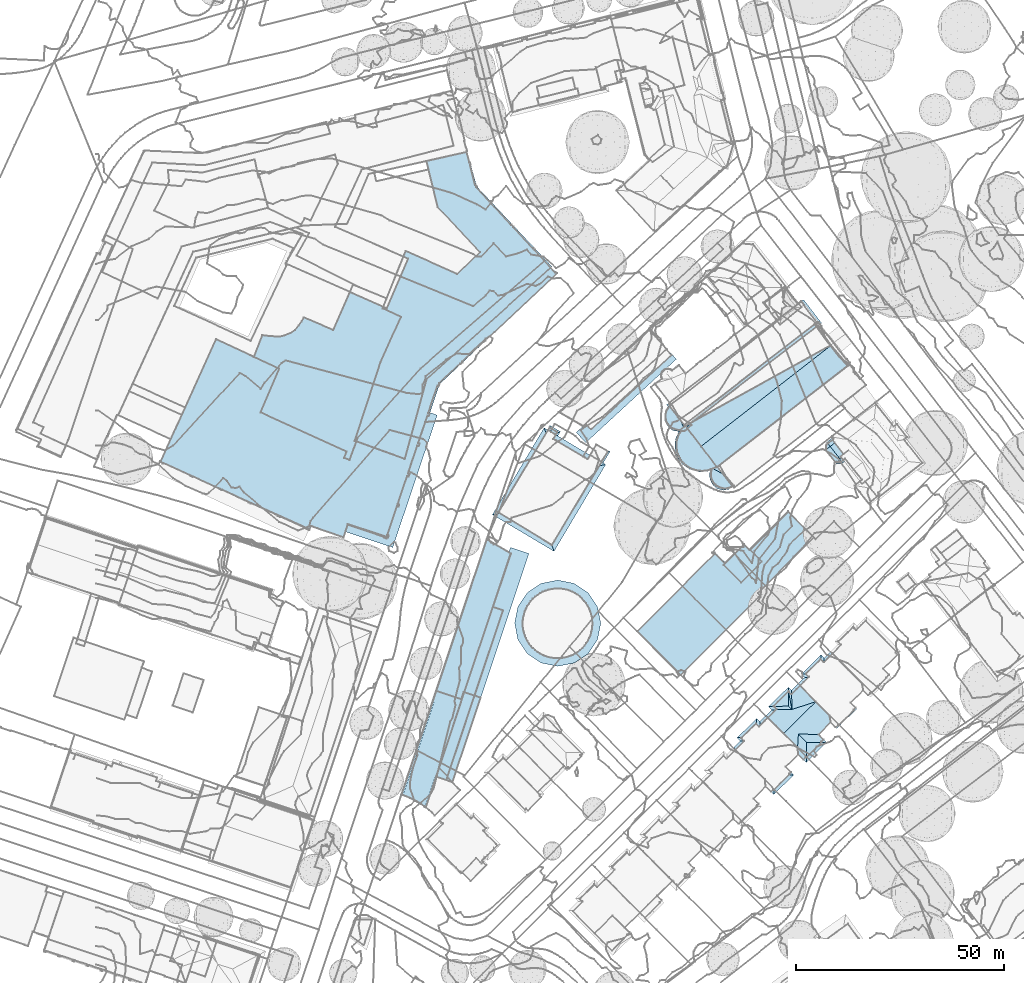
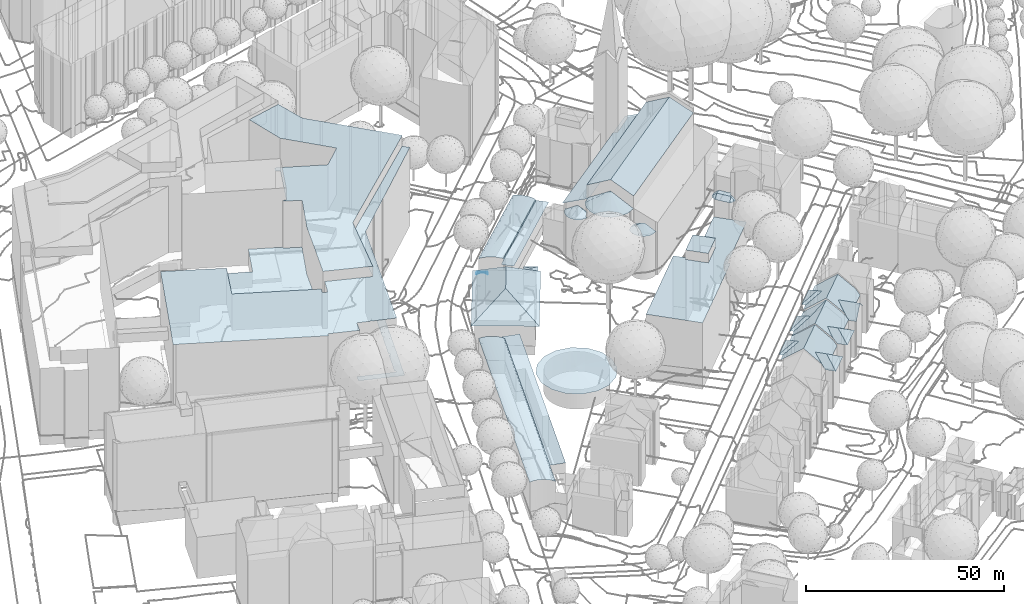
# Not in any storey, part 67 of 477: 21 roofs.
"""IFC4 building model written with IfcOpenShell, lengths in metres."""

from ifc_helpers import new_model, si_unit, frame, origin_with_axes, place, context, subcontext, project, spatial, polygons, element, save


model = new_model("IFC4")

# Units and contexts
model_context = context("Model", 3, precision=1e-05, world=origin_with_axes())
body_context = subcontext(model_context, "Body", "Model", "MODEL_VIEW")
ifc_project = project(units=[si_unit("AREAUNIT", "SQUARE_METRE"), si_unit("LENGTHUNIT", "METRE")], contexts=[model_context])

# Sites, building
site_1_placement = place(None, origin_with_axes())
site_1 = spatial("IfcSite", under=ifc_project, at=site_1_placement, Name="Topoexport Site")
site_2_placement = place(site_1_placement, origin_with_axes())
site_2 = spatial("IfcSite", under=site_1, at=site_2_placement, Name="TPX_BUILDINGS")
building_1_placement = place(site_2_placement, frame((129.1307320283, 172.8855160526, 527.2133), z_axis=(0.0, 0.0, 1.0), x_axis=(1.0, 0.0, 0.0)))
building_1 = spatial("IfcBuilding", under=site_2, at=building_1_placement, Name="Building 41", CompositionType="ELEMENT")

# Roofs
roof_1_placement = place(None, frame((129.1307320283, 172.8855160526, 527.2133), z_axis=(0.0, 0.0, 1.0), x_axis=(1.0, 0.0, 0.0)))
element("IfcRoof", 1, at=roof_1_placement, inside=building_1, Name="Roof 0", context=body_context, shape_type="Tessellation", body=[
    polygons([(42.3549999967, 22.5430000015, 20.498), (29.9069999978, 16.7265999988, 20.498), (36.2619999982, 28.6290000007, 20.498), (27.1359999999, 19.4952000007, 20.498), (24.9499999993, 11.7657000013, 20.498), (29.0059999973, 9.183600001, 20.498), (20.7619999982, 15.9501999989, 20.498), (18.8549999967, 18.8731000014, 20.498), (21.2709999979, 16.4589999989, 20.498), (0.0, 0.0, 20.498), (10.4670000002, -10.4569999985, 20.498), (29.5469999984, 8.6416000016, 20.498)], [[[3, 2, 1]], [[2, 3, 4]], [[6, 2, 5]], [[6, 1, 2]], [[9, 8, 7]], [[10, 7, 8]], [[11, 6, 5]], [[11, 12, 6]], [[5, 7, 10]], [[10, 11, 5]]]),
])
roof_2_placement = place(None, frame((129.1307320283, 172.8855160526, 527.2133), z_axis=(0.0, 0.0, 1.0), x_axis=(1.0, 0.0, 0.0)))
element("IfcRoof", 2, at=roof_2_placement, inside=building_1, Name="Roof 1", context=body_context, shape_type="Tessellation", body=[
    polygons([(24.9499999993, 11.7657000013, 23.3617), (20.7619999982, 15.9501999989, 23.3617), (29.9069999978, 16.7265999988, 23.3617), (25.7179999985, 20.9111999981, 23.3617)], [[[3, 2, 1]], [[3, 4, 2]]]),
])

# Building
building_2_placement = place(site_2_placement, frame((168.236732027, 159.8387160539, 531.4768), z_axis=(0.0, 0.0, 1.0), x_axis=(1.0, 0.0, 0.0)))
building_2 = spatial("IfcBuilding", under=site_2, at=building_2_placement, Name="Building 76", CompositionType="ELEMENT")

# Roof
roof_3_placement = place(None, frame((168.236732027, 159.8387160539, 531.4768), z_axis=(0.0, 0.0, 1.0), x_axis=(1.0, 0.0, 0.0)))
element("IfcRoof", 3, at=roof_3_placement, inside=building_2, Name="Roof 0", context=body_context, shape_type="Tessellation", body=[
    polygons([(5.7740000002, 2.0361000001, 14.2846), (-0.4900000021, 0.4960999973, 11.7109), (1.9120000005, 2.0028999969, 12.1738), (1.0669999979, 2.0331999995, 11.7109), (0.3189999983, 2.7928999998, 11.7109), (1.4600000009, 2.8125, 12.3448), (4.949000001, 2.8710999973, 14.2846), (5.748999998, 6.6561999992, 11.7109), (4.9890000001, 6.3553999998, 12.3108), (5.0009999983, 7.4149999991, 11.7109), (13.3440000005, -5.2735000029, 11.7109), (13.5899999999, -5.5235000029, 11.7109), (7.2939999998, -3.6524000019, 14.5876), (12.1510000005, -4.0655000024, 11.7109), (11.3359999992, -7.7471000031, 14.5876), (11.2010000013, -7.6114000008, 14.5876), (8.574000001, -10.009800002, 11.3339), (8.805999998, -10.2451000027, 11.3339), (7.3669999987, -8.7871000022, 11.3339), (15.1840000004, -1.0703000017, 11.7109), (14.8770000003, 0.5409999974, 12.7678), (11.5669999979, 3.8954999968, 16.4254), (7.0720000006, -7.1641000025, 12.7678), (3.7619999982, -3.8115999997, 16.4254), (7.3150000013, 8.2020999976, 11.7109)], [[[3, 2, 1]], [[2, 3, 4]], [[3, 5, 4]], [[3, 7, 6]], [[3, 6, 5]], [[3, 1, 7]], [[1, 8, 7]], [[7, 8, 9]], [[9, 8, 10]], [[9, 10, 5]], [[9, 6, 7]], [[6, 9, 5]], [[13, 12, 11]], [[13, 11, 14]], [[12, 16, 15]], [[16, 12, 13]], [[16, 13, 17]], [[15, 16, 18]], [[17, 18, 16]], [[17, 13, 19]], [[21, 14, 20]], [[13, 21, 22]], [[13, 24, 23]], [[24, 13, 22]], [[13, 14, 21]], [[1, 24, 22]], [[8, 1, 22]], [[8, 22, 25]], [[1, 2, 24]], [[13, 23, 19]]]),
])

# Building
building_3_placement = place(site_2_placement, frame((152.792732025, 144.4969160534, 530.4589), z_axis=(0.0, 0.0, 1.0), x_axis=(1.0, 0.0, 0.0)))
building_3 = spatial("IfcBuilding", under=site_2, at=building_3_placement, Name="Building 77", CompositionType="ELEMENT")

# Roof
roof_4_placement = place(None, frame((152.792732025, 144.4969160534, 530.4589), z_axis=(0.0, 0.0, 1.0), x_axis=(1.0, 0.0, 0.0)))
element("IfcRoof", 4, at=roof_4_placement, inside=building_3, Name="Roof 0", context=body_context, shape_type="Tessellation", body=[
    polygons([(7.0240000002, -3.9297000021, 14.4656), (3.7160000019, -3.7655999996, 16.6064), (11.4990000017, 3.9199000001, 16.6064), (14.8100000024, 0.5673999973, 12.7558), (11.9930000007, -4.1270000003, 11.9018), (15.0250000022, -1.134800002, 11.9018), (12.7750000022, -6.0459000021, 12.4998), (13.2320000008, -5.3819000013, 11.9018), (13.8900000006, -6.0479000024, 11.9018), (9.1090000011, -6.0410000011, 14.4656), (9.1130000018, -10.7666000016, 11.9018), (7.0860000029, -8.1914000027, 12.2278), (7.2149999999, -8.8447999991, 11.9018), (8.4680000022, -10.1132999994, 11.9018), (7.0250000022, -7.1172000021, 12.7557), (5.7910000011, 2.1543000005, 14.4656), (0.0, 0.0, 12.4958), (1.0560000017, 2.115199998, 11.9018), (-0.5369999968, 0.5438999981, 11.9018), (1.9360000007, 2.1219999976, 12.3788), (1.4580000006, 2.8759999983, 12.5208), (0.3060000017, 2.875, 11.9018), (5.0760000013, 2.878899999, 14.4656), (6.9220000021, 6.8759999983, 12.5478), (5.7410000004, 5.7020999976, 12.4768), (5.7259999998, 6.7265000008, 11.9018), (7.2460000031, 8.2284999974, 11.9978), (9.4890000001, 5.9560000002, 14.4286), (7.7600000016, 7.7080000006, 12.5548), (5.006000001, 6.1171999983, 12.6628), (4.9759999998, 7.4844000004, 11.9019)], [[[3, 2, 1]], [[3, 1, 4]], [[6, 1, 5]], [[4, 1, 6]], [[9, 8, 7]], [[7, 8, 5]], [[5, 1, 10]], [[5, 10, 7]], [[11, 7, 10]], [[7, 11, 9]], [[13, 1, 12]], [[10, 1, 14]], [[14, 1, 13]], [[14, 11, 10]], [[12, 1, 15]], [[2, 15, 1]], [[17, 2, 16]], [[19, 17, 18]], [[3, 16, 2]], [[20, 18, 17]], [[16, 20, 17]], [[22, 18, 21]], [[21, 18, 20]], [[20, 16, 23]], [[20, 23, 21]], [[25, 16, 24]], [[25, 27, 26]], [[27, 25, 24]], [[3, 28, 16]], [[16, 28, 24]], [[29, 27, 24]], [[29, 24, 28]], [[26, 30, 25]], [[16, 25, 23]], [[30, 23, 25]], [[31, 30, 26]], [[30, 31, 21]], [[21, 23, 30]], [[22, 21, 31]]]),
])

# Building
building_4_placement = place(site_2_placement, frame((95.7557320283, 201.4705160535, 529.7781), z_axis=(0.0, 0.0, 1.0), x_axis=(1.0, 0.0, 0.0)))
building_4 = spatial("IfcBuilding", under=site_2, at=building_4_placement, Name="Building 138", CompositionType="ELEMENT")

# Roofs
roof_5_placement = place(None, frame((95.7557320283, 201.4705160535, 529.7781), z_axis=(0.0, 0.0, 1.0), x_axis=(1.0, 0.0, 0.0)))
element("IfcRoof", 5, at=roof_5_placement, inside=building_4, Name="Roof 0", context=body_context, shape_type="Tessellation", body=[
    polygons([(12.7229999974, 19.2909999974, 8.9521), (11.742999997, 19.875, 8.3652), (12.5199999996, 20.2040999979, 8.6212), (12.3619999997, 20.9111000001, 8.3652), (13.9899999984, 18.995099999, 8.7611), (14.2579999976, 18.3759999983, 8.3652), (13.561999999, 18.7929999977, 8.9521), (14.8759999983, 19.4131000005, 8.3652)], [[[3, 2, 1]], [[2, 3, 4]], [[7, 6, 5]], [[5, 6, 8]], [[5, 1, 7]], [[3, 5, 8]], [[3, 1, 5]], [[4, 3, 8]]]),
])
roof_6_placement = place(None, frame((95.7557320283, 201.4705160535, 529.7781), z_axis=(0.0, 0.0, 1.0), x_axis=(1.0, 0.0, 0.0)))
element("IfcRoof", 6, at=roof_6_placement, inside=building_4, Name="Roof 1", context=body_context, shape_type="Tessellation", body=[
    polygons([(24.3259999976, 13.9882999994, 9.5001), (25.1479999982, 11.8847999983, 8.7191), (24.7869999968, 12.1006000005, 8.9061), (23.6169999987, 12.7978999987, 9.5141), (23.987999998, 12.5761999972, 9.3211), (23.2349999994, 13.0263999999, 9.3211), (22.0429999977, 13.7372999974, 8.7191), (23.7709999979, 16.1142999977, 8.8341), (26.7829999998, 14.6279000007, 8.7191), (23.675999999, 16.4804999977, 8.7191), (14.561999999, 9.5263999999, 16.1164), (20.8969999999, 13.0937999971, 10.548), (22.0429999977, 13.7372999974, 9.5431), (24.7869999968, 12.1006000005, 9.5361), (25.1479999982, 11.8847999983, 9.5431), (24.5839999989, 11.7588, 9.893), (24.2789999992, 11.2480999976, 10.418), (25.7719999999, 11.5136999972, 9.5431), (12.8409999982, -7.871100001, 10.446), (-1.4530000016, -0.5146000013, 9.5431), (0.3530000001, -0.2158000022, 10.61), (9.6719999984, 1.3242000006, 16.1164), (13.3459999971, -9.3359000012, 9.543), (23.5359999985, 16.2520000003, 8.7191), (11.443, 18.9247999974, 10.4), (10.9749999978, 20.3339999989, 9.5431), (12.7229999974, 19.2909999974, 9.5431), (14.1549999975, 18.4375, 9.5431), (13.561999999, 18.7929999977, 9.5431)], [[[3, 2, 1]], [[5, 1, 4]], [[1, 5, 3]], [[4, 1, 6]], [[7, 6, 1]], [[9, 8, 1]], [[8, 9, 10]], [[9, 1, 2]], [[12, 11, 4]], [[4, 13, 12]], [[4, 11, 14]], [[16, 15, 14]], [[16, 14, 11]], [[18, 15, 17]], [[16, 11, 17]], [[16, 17, 15]], [[21, 20, 19]], [[19, 22, 21]], [[23, 19, 20]], [[8, 10, 24]], [[7, 1, 8]], [[7, 8, 24]], [[19, 23, 17]], [[22, 19, 11]], [[17, 11, 19]], [[18, 17, 23]], [[25, 21, 11]], [[20, 25, 26]], [[21, 22, 11]], [[20, 21, 25]], [[27, 26, 25]], [[29, 25, 28]], [[25, 29, 27]], [[25, 11, 28]], [[28, 12, 13]], [[12, 28, 11]]]),
])

# Building
building_5_placement = place(site_2_placement, frame((-19.7342679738, 221.4617160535, 529.9572), z_axis=(0.0, 0.0, 1.0), x_axis=(1.0, 0.0, 0.0)))
building_5 = spatial("IfcBuilding", under=site_2, at=building_5_placement, Name="Building 139", CompositionType="ELEMENT")

# Roofs
roof_7_placement = place(None, frame((-19.7342679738, 221.4617160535, 529.9572), z_axis=(0.0, 0.0, 1.0), x_axis=(1.0, 0.0, 0.0)))
element("IfcRoof", 7, at=roof_7_placement, inside=building_5, Name="Roof 6", context=body_context, shape_type="Tessellation", body=[
    polygons([(79.0159999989, -5.4209000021, 12.5557), (79.7529999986, -7.4209000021, 12.5557), (78.4660000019, -6.9248000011, 12.5557), (80.9890000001, -2.8291000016, 12.5557), (81.4059999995, -2.9794999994, 12.5557), (87.1979999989, 16.0947999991, 12.5557), (62.8740000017, 14.4862999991, 12.5557), (58.3509999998, 4.0196000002, 12.5557), (60.2910000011, 22.3642999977, 12.5558), (56.7750000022, 17.3321000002, 12.5558), (58.8210000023, 22.557599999, 12.5558), (62.8170000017, 22.1816999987, 12.5558), (64.0949999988, 22.4912, 12.5558), (87.6849999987, 28.9853999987, 12.5557), (75.8379999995, 23.7997999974, 12.5557), (92.0879999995, 26.932599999, 12.5557), (65.6350000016, 23.0956999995, 12.5558), (79.8440000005, 32.9169999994, 12.5558), (87.8379999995, 29.3662, 12.5557), (66.6460000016, 23.8222999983, 12.5558), (67.5040000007, 24.8407999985, 12.5558), (68.2120000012, 25.7734999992, 12.5558), (68.7309999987, 26.8300999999, 12.5558)], [[[3, 2, 1]], [[1, 5, 4]], [[5, 1, 2]], [[7, 4, 6]], [[1, 4, 8]], [[7, 8, 4]], [[10, 7, 9]], [[9, 11, 10]], [[12, 9, 7]], [[12, 7, 13]], [[15, 6, 14]], [[14, 6, 16]], [[6, 15, 17]], [[14, 19, 18]], [[14, 18, 15]], [[13, 7, 17]], [[20, 17, 15]], [[22, 21, 15]], [[23, 22, 15]], [[20, 15, 21]], [[17, 7, 6]]]),
])
roof_8_placement = place(None, frame((-19.7342679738, 221.4617160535, 529.9572), z_axis=(0.0, 0.0, 1.0), x_axis=(1.0, 0.0, 0.0)))
element("IfcRoof", 8, at=roof_8_placement, inside=building_5, Name="Roof 7", context=body_context, shape_type="Tessellation", body=[
    polygons([(98.9919999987, 3.7362999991, 7.2202), (98.6559999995, 3.8486999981, 7.2202), (98.7380000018, 4.0918000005, 7.2202), (98.8040000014, 3.1659999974, 7.2202), (96.2259999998, -3.3896000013, 7.2202), (98.4649999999, 3.2802999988, 7.2202), (94.1390000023, -10.7861000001, 7.2202), (93.7789999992, -10.6816000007, 7.2202), (96.0350000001, -3.9590000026, 7.2202), (100.7919999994, 3.4023999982, 7.2202), (96.5800000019, -3.5088, 7.2202), (96.3920000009, -4.0780999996, 7.2202), (93.9479999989, -11.3553999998, 7.2202), (91.3289999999, -17.9756000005, 7.2202), (93.5879999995, -11.251000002, 7.2202), (91.6840000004, -18.0947000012, 7.2202), (89.0289999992, -26.0039000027, 7.2202), (78.8260000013, -24.4990000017, 7.2202), (79.3350000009, -22.817400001, 7.2202), (78.7850000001, -24.6172000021, 7.2202), (90.1000000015, -28.4189000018, 7.2202), (91.493999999, -18.6611000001, 7.2202), (89.1909999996, -25.5224000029, 7.2202), (91.1390000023, -18.5419999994, 7.2202), (88.8300000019, -25.4189000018, 7.2202)], [[[3, 2, 1]], [[6, 5, 4]], [[9, 8, 7]], [[10, 1, 4]], [[1, 10, 3]], [[10, 4, 11]], [[4, 5, 11]], [[12, 7, 10]], [[11, 12, 10]], [[7, 12, 9]], [[10, 7, 13]], [[16, 15, 14]], [[19, 18, 17]], [[18, 20, 17]], [[21, 13, 16]], [[13, 15, 16]], [[21, 16, 22]], [[23, 21, 22]], [[21, 23, 17]], [[17, 20, 21]], [[23, 22, 24]], [[23, 24, 25]], [[13, 21, 10]]]),
])
roof_9_placement = place(None, frame((-19.7342679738, 221.4617160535, 529.9572), z_axis=(0.0, 0.0, 1.0), x_axis=(1.0, 0.0, 0.0)))
element("IfcRoof", 9, at=roof_9_placement, inside=building_5, Name="Roof 8", context=body_context, shape_type="Tessellation", body=[
    polygons([(128.0749999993, 38.7763999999, 23.8336), (126.5549999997, 40.4219000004, 23.8336), (126.6339999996, 40.4912, 23.8336), (129.6119999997, 37.4345999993, 23.8336), (114.6420000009, 23.3418000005, 23.8336), (98.2879999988, 12.0185999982, 23.8336), (111.9680000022, 20.8233000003, 23.8336), (106.6490000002, 15.8145000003, 23.8336), (101.3260000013, 10.8017999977, 23.8336), (98.9919999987, 3.736399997, 23.8336), (93.0320000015, -7.1660000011, 23.8336), (89.1290000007, -26.0371000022, 23.8336), (96.6070000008, -3.4277000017, 23.8336), (79.7529999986, -7.4209000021, 23.8336), (81.4059999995, -2.9794999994, 23.8336), (48.568, -14.3349000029, 23.8336), (58.3509999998, 4.0196000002, 23.8337), (49.1140000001, -14.5849000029, 23.8336), (79.0159999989, -5.4209000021, 23.8336), (78.4660000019, -6.9248000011, 23.8336), (70.6229999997, -23.3515000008, 23.8336), (36.8099999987, -2.4404000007, 23.8337), (47.6970000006, 21.5683999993, 23.8337), (62.8740000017, 14.486399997, 23.8337), (34.3410000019, -7.8905999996, 23.8337), (79.3350000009, -22.817400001, 23.8336), (71.9290000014, -23.808600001, 23.8336), (78.8260000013, -24.4990000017, 23.8336), (78.3480000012, -26.0752000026, 23.8336), (70.2939999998, -24.1631000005, 23.8336)], [[[3, 2, 1]], [[1, 4, 3]], [[4, 1, 5]], [[7, 5, 6]], [[5, 1, 6]], [[7, 6, 8]], [[6, 9, 8]], [[9, 6, 10]], [[6, 11, 10]], [[13, 11, 12]], [[11, 13, 10]], [[15, 14, 11]], [[18, 17, 16]], [[17, 20, 19]], [[21, 20, 17]], [[21, 17, 18]], [[17, 23, 22]], [[17, 24, 23]], [[22, 25, 16]], [[22, 16, 17]], [[14, 26, 12]], [[28, 26, 27]], [[14, 20, 26]], [[11, 14, 12]], [[26, 20, 21]], [[27, 29, 28]], [[21, 27, 26]], [[18, 30, 21]]]),
])
roof_10_placement = place(None, frame((-19.7342679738, 221.4617160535, 529.9572), z_axis=(0.0, 0.0, 1.0), x_axis=(1.0, 0.0, 0.0)))
element("IfcRoof", 10, at=roof_10_placement, inside=building_5, Name="Roof 9", context=body_context, shape_type="Tessellation", body=[
    polygons([(98.2879999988, 12.0185999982, 27.0083), (93.0320000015, -7.1660000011, 27.0083), (80.9890000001, -2.8291000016, 27.0083), (92.0879999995, 26.932599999, 27.0084), (87.1979999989, 16.0946999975, 27.0083), (105.5940000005, 37.2460999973, 27.0084), (93.8509999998, 40.9062999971, 27.0084), (87.8379999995, 29.3662, 27.0084), (88.6739999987, 28.995099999, 27.0084), (87.6849999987, 28.9853999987, 27.0084), (93.2239999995, 42.7812999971, 27.0084), (92.6770000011, 41.4179999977, 27.0084), (128.3619999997, 39.0331999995, 27.0083), (111.1070000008, 42.5205000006, 27.0084), (110.2879999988, 58.2821999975, 27.0084), (100.9539999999, 53.3720999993, 27.0084), (108.6979999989, 64.1435999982, 27.0084), (98.2540000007, 64.3896999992, 27.0084), (107.8990000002, 66.5478999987, 27.0084), (107.8509999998, 66.7372999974, 27.0084), (107.9919999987, 66.7773999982, 27.0084)], [[[3, 2, 1]], [[5, 1, 4]], [[1, 5, 3]], [[7, 4, 6]], [[10, 9, 8]], [[9, 10, 4]], [[12, 7, 11]], [[7, 6, 11]], [[9, 4, 7]], [[4, 1, 6]], [[14, 6, 13]], [[16, 14, 15]], [[14, 13, 15]], [[6, 1, 13]], [[16, 15, 17]], [[17, 18, 16]], [[18, 17, 19]], [[19, 21, 20]], [[21, 19, 17]]]),
])

# Building
building_6_placement = place(site_2_placement, frame((101.6207320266, 174.7557160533, 529.8231), z_axis=(0.0, 0.0, 1.0), x_axis=(1.0, 0.0, 0.0)))
building_6 = spatial("IfcBuilding", under=site_2, at=building_6_placement, Name="Building 140", CompositionType="ELEMENT")

# Roof
roof_11_placement = place(None, frame((101.6207320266, 174.7557160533, 529.8231), z_axis=(0.0, 0.0, 1.0), x_axis=(1.0, 0.0, 0.0)))
element("IfcRoof", 11, at=roof_11_placement, inside=building_6, Name="Roof 0", context=body_context, shape_type="Tessellation", body=[
    polygons([(8.375, 8.4120999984, 6.2123), (8.375, 0.125, 7.3372), (5.2039999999, 7.7802000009, 6.2133), (4.4149999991, 9.682599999, 5.9334), (8.375, 10.4706999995, 5.9334), (11.5469999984, 7.7821999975, 6.2123), (12.3350000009, 9.682599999, 5.9334), (14.2540000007, 6.003899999, 6.2093), (15.6900000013, 7.4404000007, 5.9334), (16.0749999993, 3.3143999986, 6.2063), (17.9329999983, 4.0839999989, 5.9334), (16.7479999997, 0.125, 6.2013), (18.7199999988, 0.125, 5.9333), (17.9329999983, -3.8340000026, 5.9333), (14.3410000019, -5.8418000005, 6.1923), (15.6900000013, -7.1914000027, 5.9333), (11.6079999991, -7.6817000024, 6.1903), (12.3330000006, -9.433600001, 5.9333), (8.375, -8.3379000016, 6.1883), (8.375, -10.2206999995, 5.9333), (5.1400000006, -7.6827000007, 6.1903), (4.4149999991, -9.433600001, 5.9334), (2.4100000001, -5.8399000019, 6.1923), (1.0579999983, -7.1914000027, 5.9334), (0.6119999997, -3.0899000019, 6.1973), (-1.1840000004, -3.8340000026, 5.9334), (0.004999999, 0.125, 6.2013), (-1.9699999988, 0.125, 5.9334), (0.675999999, 3.3143999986, 6.2063), (-1.1840000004, 4.0839999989, 5.9334), (1.0599999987, 7.4404000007, 5.9334), (2.5, 6.0, 6.2093)], [[[3, 2, 1]], [[5, 4, 3]], [[5, 3, 1]], [[1, 2, 6]], [[7, 5, 1]], [[7, 1, 6]], [[6, 2, 8]], [[9, 7, 6]], [[9, 6, 8]], [[8, 2, 10]], [[11, 9, 8]], [[11, 8, 10]], [[10, 2, 12]], [[13, 11, 10]], [[13, 10, 12]], [[12, 2, 14]], [[14, 13, 12]], [[14, 2, 15]], [[16, 14, 15]], [[15, 2, 17]], [[18, 16, 15]], [[18, 15, 17]], [[17, 2, 19]], [[20, 18, 17]], [[20, 17, 19]], [[22, 20, 21]], [[19, 2, 21]], [[19, 21, 20]], [[24, 22, 23]], [[21, 2, 23]], [[21, 23, 22]], [[26, 24, 25]], [[23, 2, 25]], [[23, 25, 24]], [[28, 26, 27]], [[25, 2, 27]], [[25, 27, 26]], [[30, 28, 29]], [[27, 2, 29]], [[27, 29, 28]], [[4, 31, 3]], [[32, 2, 3]], [[32, 3, 31]], [[31, 30, 32]], [[29, 2, 32]], [[29, 32, 30]]]),
])

# Building
building_7_placement = place(site_2_placement, frame((72.548732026, 133.6649160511, 527.8002), z_axis=(0.0, 0.0, 1.0), x_axis=(1.0, 0.0, 0.0)))
building_7 = spatial("IfcBuilding", under=site_2, at=building_7_placement, Name="Building 143", CompositionType="ELEMENT")

# Roofs
roof_12_placement = place(None, frame((72.548732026, 133.6649160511, 527.8002), z_axis=(0.0, 0.0, 1.0), x_axis=(1.0, 0.0, 0.0)))
element("IfcRoof", 12, at=roof_12_placement, inside=building_7, Name="Roof 1", context=body_context, shape_type="Tessellation", body=[
    polygons([(24.8249999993, 58.8203000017, 12.2289), (3.7039999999, -1.9111999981, 12.3298), (24.1070000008, 59.2275000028, 12.3299), (4.4330000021, -2.2881999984, 12.2288), (2.9210000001, -1.5068999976, 12.3638), (23.3350000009, 59.6660000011, 12.3639), (22.563000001, 60.1015000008, 12.3299), (2.1380000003, -1.1044999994, 12.3298), (21.8449999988, 60.5107000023, 12.2289), (9.7919999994, 24.3935000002, 12.2289), (1.4090000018, -0.7275999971, 12.2288), (13.6420000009, 23.1064000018, 12.0689), (25.9169999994, 58.2021000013, 11.8599), (14.1490000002, 22.937400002, 11.8599), (25.443, 58.4697000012, 12.0689), (5.4290999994, -2.807699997, 11.907), (5.5401000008, -2.8594999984, 11.86), (5.0600000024, -2.611399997, 12.0688), (26.2138999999, 58.0322000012, 11.6169), (15.0529999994, 24.5868999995, 11.6169), (5.8420000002, -3.0156999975, 11.6169), (21.2269000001, 60.8613000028, 12.0689), (9.1319999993, 24.6152000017, 12.0689), (0.7829999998, -0.4043000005, 12.0689), (20.7481000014, 61.1210000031, 11.86), (8.625, 24.7840999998, 11.8599), (0.3020000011, -0.1562999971, 11.8599), (0.0, -9.9998e-05, 11.6169), (8.3060000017, 24.8905999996, 11.6169), (20.4539999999, 61.2919000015, 11.6169)], [[[3, 2, 1]], [[4, 1, 2]], [[6, 5, 3]], [[5, 2, 3]], [[6, 7, 5]], [[8, 5, 7]], [[10, 7, 9]], [[8, 7, 11]], [[11, 7, 10]], [[14, 13, 12]], [[13, 15, 12]], [[17, 14, 16]], [[16, 12, 18]], [[16, 14, 12]], [[1, 12, 15]], [[18, 12, 4]], [[4, 12, 1]], [[13, 20, 19]], [[14, 17, 21]], [[21, 20, 14]], [[14, 20, 13]], [[22, 10, 9]], [[23, 10, 22]], [[11, 10, 24]], [[24, 10, 23]], [[25, 23, 22]], [[23, 25, 26]], [[27, 24, 26]], [[26, 24, 23]], [[28, 27, 26]], [[26, 25, 29]], [[30, 29, 25]], [[26, 29, 28]]]),
])
roof_13_placement = place(None, frame((72.548732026, 133.6649160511, 527.8002), z_axis=(0.0, 0.0, 1.0), x_axis=(1.0, 0.0, 0.0)))
element("IfcRoof", 13, at=roof_13_placement, inside=building_7, Name="Roof 2", context=body_context, shape_type="Tessellation", body=[
    polygons([(12.1469999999, 2.9970000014, 11.5889), (18.9510000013, 23.2840999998, 11.5899), (12.1779999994, 2.9873000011, 11.5899), (8.2789999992, 4.2890000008, 11.4169), (15.0529999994, 24.5868999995, 11.4139), (26.175999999, 57.9189000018, 11.41), (30.5240000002, 57.9618999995, 11.5899), (25.699000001, 58.2001000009, 11.386), (26.1110000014, 59.4335000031, 11.386)], [[[3, 2, 1]], [[5, 4, 1]], [[1, 2, 5]], [[2, 6, 5]], [[6, 2, 7]], [[6, 9, 8]], [[9, 6, 7]]]),
])

# Building
building_8_placement = place(site_2_placement, frame((140.4987320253, 222.5740160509, 530.262), z_axis=(0.0, 0.0, 1.0), x_axis=(1.0, 0.0, 0.0)))
building_8 = spatial("IfcBuilding", under=site_2, at=building_8_placement, Name="Building 152", CompositionType="ELEMENT")

# Roofs
roof_14_placement = place(None, frame((140.4987320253, 222.5740160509, 530.262), z_axis=(0.0, 0.0, 1.0), x_axis=(1.0, 0.0, 0.0)))
element("IfcRoof", 14, at=roof_14_placement, inside=building_8, Name="Roof 0", context=body_context, shape_type="Tessellation", body=[
    polygons([(31.2479999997, 24.0996000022, 23.2138), (32.3200000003, 22.6270000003, 24.1777), (0.0, 0.0, 23.2138), (34.9480000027, 19.0127000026, 26.5445), (34.9940000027, 18.9590000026, 26.5815), (0.2019999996, -0.2938999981, 23.4248), (35.0190000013, 18.9297000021, 26.6015), (7.7970000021, -10.2206999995, 23.2798), (3.9820000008, -5.1805999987, 26.6015), (35.0430000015, 18.9013999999, 26.5815), (39.1830000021, 14.0625, 23.3038), (39.376000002, 14.2285000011, 23.3108), (39.4150000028, 14.1826000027, 23.2798)], [[[3, 2, 1]], [[2, 3, 4]], [[5, 4, 3]], [[3, 6, 5]], [[9, 8, 7]], [[10, 7, 8]], [[7, 5, 6]], [[6, 9, 7]], [[13, 12, 11]], [[11, 8, 13]], [[10, 8, 11]]]),
])
roof_15_placement = place(None, frame((140.4987320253, 222.5740160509, 530.262), z_axis=(0.0, 0.0, 1.0), x_axis=(1.0, 0.0, 0.0)))
element("IfcRoof", 15, at=roof_15_placement, inside=building_8, Name="Roof 2", context=body_context, shape_type="Tessellation", body=[
    polygons([(9.2760000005, -15.3456999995, 14.1516), (7.7699999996, -15.360299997, 13.9227), (9.7300000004, -12.5634999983, 15.6185), (9.631000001, -12.4354999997, 15.6685), (9.2050000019, -15.7782999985, 13.9227), (6.7719999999, -14.5028999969, 13.9227), (9.5670000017, -12.3534999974, 15.6785), (6.1229999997, -13.3202999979, 13.9227), (9.5030000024, -12.2704999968, 15.6705), (5.9050000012, -12.0800999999, 13.9227), (9.4250000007, -12.1708999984, 15.6405), (11.4979999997, -14.8368999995, 13.9516), (11.6030000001, -14.7704999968, 13.9496), (11.6520000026, -14.8329999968, 13.9027), (10.5530000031, -15.5399999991, 13.9227), (9.9409999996, -12.8339999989, 15.4515), (6.0880000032, -10.9882999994, 13.9227), (9.3120000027, -12.0253999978, 15.5745), (9.1740000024, -11.8486000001, 15.5205), (6.3770000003, -10.8213, 14.1036), (6.8049999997, -10.5751999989, 14.3706), (7.7970000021, -10.2206999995, 14.6156), (7.8670000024, -10.1659999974, 14.6246)], [[[3, 2, 1]], [[2, 3, 4]], [[2, 5, 1]], [[4, 6, 2]], [[6, 4, 7]], [[6, 7, 8]], [[8, 7, 9]], [[8, 9, 10]], [[10, 9, 11]], [[14, 13, 12]], [[12, 15, 14]], [[16, 15, 12]], [[5, 15, 1]], [[1, 16, 3]], [[16, 1, 15]], [[10, 11, 17]], [[17, 11, 18]], [[20, 17, 19]], [[20, 19, 21]], [[19, 17, 18]], [[22, 21, 19]], [[22, 19, 23]]]),
])
roof_16_placement = place(None, frame((140.4987320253, 222.5740160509, 530.262), z_axis=(0.0, 0.0, 1.0), x_axis=(1.0, 0.0, 0.0)))
element("IfcRoof", 16, at=roof_16_placement, inside=building_8, Name="Roof 9", context=body_context, shape_type="Tessellation", body=[
    polygons([(-1.436999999, -7.4774999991, 19.5881), (-0.6730000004, -9.3895999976, 19.3382), (-1.8169999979, -7.6385999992, 19.3382), (3.9820000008, -5.1805999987, 23.1468), (-1.9189999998, -5.619099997, 19.6071), (-2.3669999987, -5.6523000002, 19.3382), (-1.7859999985, -3.6787, 19.6261), (-2.2569999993, -3.5555999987, 19.3382), (-1.4569999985, -1.6444999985, 19.3382), (6.8049999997, -10.5751999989, 19.3381), (5.6280000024, -11.1972000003, 19.3381), (7.7970000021, -10.2206999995, 19.3771), (6.0860000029, -10.9891999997, 19.3381), (3.4020000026, -11.360299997, 19.3381), (1.132000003, -10.7118999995, 19.3381), (1.2790000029, -10.4287, 19.5341), (0.2019999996, -0.2938999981, 19.4741), (-1.0429999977, -1.3143999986, 19.3722), (0.2019999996, -0.2938999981, 19.3632), (-4.3459999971, 4.7910000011, 16.2605), (28.5320000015, 30.0371000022, 16.2605), (32.9079999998, 24.3379000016, 19.5381), (0.4370000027, -0.5975999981, 19.5381), (-0.193, -0.6171999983, 19.3712)], [[[3, 2, 1]], [[2, 4, 1]], [[1, 4, 5]], [[6, 3, 1]], [[6, 1, 5]], [[5, 4, 7]], [[8, 6, 5]], [[8, 5, 7]], [[7, 4, 9]], [[9, 8, 7]], [[4, 11, 10]], [[12, 4, 10]], [[11, 13, 10]], [[16, 15, 14]], [[4, 16, 14]], [[4, 14, 11]], [[16, 4, 2]], [[16, 2, 15]], [[18, 4, 17]], [[4, 18, 9]], [[21, 20, 19]], [[21, 19, 22]], [[19, 23, 22]], [[24, 19, 20]]]),
])
roof_17_placement = place(None, frame((140.4987320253, 222.5740160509, 530.262), z_axis=(0.0, 0.0, 1.0), x_axis=(1.0, 0.0, 0.0)))
element("IfcRoof", 17, at=roof_17_placement, inside=building_8, Name="Roof 12", context=body_context, shape_type="Tessellation", body=[
    polygons([(-3.5419999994, -0.4472000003, 14.4696), (-2.7869999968, -1.4375, 14.2387), (-3.7850000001, -0.7333999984, 14.2387), (-1.5799999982, 1.8564999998, 16.3385), (-1.5309999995, 1.7920000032, 16.3235), (-4.4329999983, 0.1709000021, 14.2387), (-1.6209999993, 1.9101999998, 16.3375), (-4.807, 1.0596000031, 14.2387), (-1.6579999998, 1.9580000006, 16.3275), (-4.8819999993, 2.001000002, 14.2387), (-1.7039999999, 2.0186000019, 16.3005), (-0.8589999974, -1.5713, 14.4056), (-0.8789999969, -1.6014999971, 14.3866), (-1.0399999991, -1.3192999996, 14.5406), (-0.8439999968, -1.5458999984, 14.4206), (-1.1039999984, 1.2364000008, 16.0345), (-0.2749999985, -0.6854999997, 14.9636), (-0.6589999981, -1.0, 14.7536), (-1.443, 1.6787, 16.2705), (-1.4569999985, -1.6444999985, 14.3226), (0.1220000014, -0.360299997, 14.9526), (-4.6609999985, 3.1553000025, 14.2387), (-1.8029999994, 2.1465000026, 16.2205), (-2.0339999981, 2.447300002, 15.9915), (-4.0039999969, 3.8721000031, 14.3956), (-4.2009999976, 4.0215000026, 14.2337), (-3.4129999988, 4.5137000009, 14.4406), (-3.5350000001, 4.4024000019, 14.4226), (-3.5769999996, 4.7295000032, 14.2697)], [[[3, 2, 1]], [[2, 4, 1]], [[4, 2, 5]], [[6, 3, 1]], [[1, 7, 6]], [[7, 1, 4]], [[6, 9, 8]], [[9, 6, 7]], [[8, 11, 10]], [[11, 8, 9]], [[14, 13, 12]], [[12, 15, 14]], [[18, 17, 16]], [[18, 16, 19]], [[20, 13, 14]], [[14, 19, 20]], [[19, 14, 18]], [[20, 5, 2]], [[5, 20, 19]], [[16, 17, 21]], [[10, 11, 22]], [[22, 11, 23]], [[23, 24, 22]], [[22, 24, 25]], [[26, 22, 25]], [[29, 28, 27]], [[24, 28, 25]], [[25, 28, 26]], [[28, 29, 26]], [[19, 4, 5]]]),
])

# Building
building_9_placement = place(site_2_placement, frame((110.5127320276, 225.4217160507, 530.0601), z_axis=(0.0, 0.0, 1.0), x_axis=(1.0, 0.0, 0.0)))
building_9 = spatial("IfcBuilding", under=site_2, at=building_9_placement, Name="Building 153", CompositionType="ELEMENT")

# Roof
roof_18_placement = place(None, frame((110.5127320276, 225.4217160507, 530.0601), z_axis=(0.0, 0.0, 1.0), x_axis=(1.0, 0.0, 0.0)))
element("IfcRoof", 18, at=roof_18_placement, inside=building_9, Name="Roof 0", context=body_context, shape_type="Tessellation", body=[
    polygons([(24.6339999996, 9.7890000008, 9.3331), (6.2129999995, -7.1991999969, 9.3331), (24.7289999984, 9.9140000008, 9.3321), (3.9379999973, -4.7333999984, 9.1491), (5.5109999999, -3.2821999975, 9.1491), (5.5940000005, -3.2050999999, 9.1491), (24.8209999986, 10.0283000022, 9.3301), (25.7109999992, 15.3457000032, 9.1491), (25.1549999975, 10.2900000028, 9.3321), (25.0370000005, 10.2129000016, 9.3311), (27.9849999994, 12.879900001, 9.3331), (25.1979999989, 10.3095000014, 9.3331), (3.612999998, -2.0702999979, 9.936), (23.574000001, 17.6631000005, 9.976), (24.2339999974, 16.9472000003, 9.936), (2.7280000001, -1.561499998, 9.976), (4.4129999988, -2.5282999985, 9.818), (24.8350000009, 16.3047000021, 9.818), (25.3029999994, 15.7890000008, 9.635), (5.0469999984, -2.8915999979, 9.635), (5.4539999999, -3.125, 9.4051), (25.6059999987, 15.4599000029, 9.4051), (0.4079999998, -0.2333999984, 9.635), (21.5419999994, 19.8662, 9.4051), (21.8460000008, 19.5371000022, 9.635), (0.0, 0.0, 9.4051), (1.0419999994, -0.5966999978, 9.818), (22.318, 19.0254000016, 9.818), (1.8420000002, -1.0546999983, 9.936), (22.9140000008, 18.3789000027, 9.936), (24.2339999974, 16.9472000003, 9.736), (24.8350000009, 16.3047000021, 9.618), (25.0399999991, 10.2148000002, 9.1311), (25.1569999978, 10.2910000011, 9.1821), (25.2019999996, 10.3144000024, 9.1331)], [[[3, 2, 1]], [[2, 5, 4]], [[5, 2, 6]], [[7, 2, 3]], [[6, 7, 8]], [[7, 6, 2]], [[11, 10, 9]], [[12, 11, 9]], [[7, 11, 8]], [[7, 10, 11]], [[15, 14, 13]], [[16, 13, 14]], [[18, 15, 17]], [[13, 17, 15]], [[18, 20, 19]], [[20, 18, 17]], [[22, 19, 21]], [[21, 19, 20]], [[25, 24, 23]], [[26, 23, 24]], [[28, 25, 27]], [[23, 27, 25]], [[30, 28, 29]], [[27, 29, 28]], [[14, 30, 16]], [[29, 16, 30]], [[21, 6, 22]], [[22, 6, 8]], [[19, 32, 31]], [[35, 34, 33]]]),
])

# Building
building_10_placement = place(site_2_placement, frame((174.360732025, 216.5486160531, 540.845), z_axis=(0.0, 0.0, 1.0), x_axis=(1.0, 0.0, 0.0)))
building_10 = spatial("IfcBuilding", under=site_2, at=building_10_placement, Name="Building 155", CompositionType="ELEMENT")

# Roof
roof_19_placement = place(None, frame((174.360732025, 216.5486160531, 540.845), z_axis=(0.0, 0.0, 1.0), x_axis=(1.0, 0.0, 0.0)))
element("IfcRoof", 19, at=roof_19_placement, inside=building_10, Name="Roof 3", context=body_context, shape_type="Tessellation", body=[
    polygons([(3.8670000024, -2.8408000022, 0.3439), (3.7920000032, -1.9043000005, 1.0649), (4.2750000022, -2.5185000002, 0.3439), (4.5050000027, -2.8125, 0.0), (3.9020000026, -3.2871000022, 0.0), (3.7390000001, -2.9228000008, 0.3539), (3.4120000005, -2.1933000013, 1.0649), (1.393000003, 2.7128999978, 0.0), (0.5320000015, 1.4706999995, 0.3549), (0.257000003, 1.8213, 0.0), (1.0810000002, 0.7734999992, 1.0649), (2.2170000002, 1.6660999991, 1.0649), (3.5970000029, -1.6581999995, 1.0649), (4.3570000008, -1.058600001, 1.0649), (0.007000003, -0.0703000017, 0.0), (0.0, 0.0, 0.0), (-0.0799999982, 0.942400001, 0.0), (2.7800000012, -2.9638000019, 0.3059), (2.5250000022, -3.2754000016, 0.0), (3.1480000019, -3.3515000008, 0.0)], [[[3, 2, 1]], [[5, 4, 3]], [[5, 3, 1]], [[6, 5, 1]], [[2, 7, 6]], [[2, 6, 1]], [[10, 9, 8]], [[8, 9, 11]], [[12, 8, 11]], [[14, 12, 13]], [[13, 12, 11]], [[13, 7, 2]], [[7, 13, 11]], [[16, 15, 11]], [[16, 11, 17]], [[10, 17, 9]], [[11, 9, 17]], [[11, 15, 18]], [[11, 18, 7]], [[18, 15, 19]], [[6, 7, 20]], [[20, 5, 6]], [[20, 7, 18]], [[19, 20, 18]]]),
])

# Building
building_11_placement = place(site_2_placement, frame((160.5527320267, 152.2049160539, 530.9679), z_axis=(0.0, 0.0, 1.0), x_axis=(1.0, 0.0, 0.0)))
building_11 = spatial("IfcBuilding", under=site_2, at=building_11_placement, Name="Building 161", CompositionType="ELEMENT")

# Roofs
roof_20_placement = place(None, frame((160.5527320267, 152.2049160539, 530.9679), z_axis=(0.0, 0.0, 1.0), x_axis=(1.0, 0.0, 0.0)))
element("IfcRoof", 20, at=roof_20_placement, inside=building_11, Name="Roof 0", context=body_context, shape_type="Tessellation", body=[
    polygons([(5.0599999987, 6.0936999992, 12.2408), (4.8770000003, 6.2773000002, 12.2428), (4.8709999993, 7.3358999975, 11.5838), (5.688000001, 1.9618999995, 14.4246), (5.6350000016, 5.5986000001, 12.1858), (5.6209999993, 6.5770999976, 11.5838), (6.8770000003, 6.8329999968, 12.1818), (11.4459999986, 3.8222999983, 16.4764), (7.1939999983, 8.1298999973, 11.5838), (7.6840000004, 7.6338, 12.1478)], [[[3, 2, 1]], [[4, 1, 2]], [[6, 3, 5]], [[1, 4, 5]], [[1, 5, 3]], [[4, 8, 7]], [[7, 10, 9]], [[10, 7, 8]], [[5, 4, 7]], [[6, 7, 9]], [[7, 6, 5]]]),
])
roof_21_placement = place(None, frame((160.5527320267, 152.2049160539, 530.9679), z_axis=(0.0, 0.0, 1.0), x_axis=(1.0, 0.0, 0.0)))
element("IfcRoof", 21, at=roof_21_placement, inside=building_11, Name="Roof 1", context=body_context, shape_type="Tessellation", body=[
    polygons([(7.2540000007, -3.9463, 14.4245), (3.7390000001, -3.7881000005, 16.4764), (11.4459999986, 3.8222999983, 16.4764), (7.0500000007, -7.1406000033, 12.8437), (14.756000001, 0.4696999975, 12.8437), (15.050999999, -1.1533000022, 12.0618), (12.1099999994, -4.058600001, 12.0618), (9.2159999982, -5.9356000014, 14.4245), (7.2650000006, -8.8428000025, 12.0618), (12.8539999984, -5.9678000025, 12.6297), (13.3260000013, -5.2901000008, 12.0618), (14.006000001, -5.9795000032, 12.0618), (9.1739999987, -9.6240000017, 12.6197), (9.1609999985, -10.764700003, 12.0618), (8.493999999, -10.0879000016, 12.0618), (1.8949999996, 1.8838, 12.1998), (0.8449999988, 1.8622999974, 11.5838), (0.0960000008, 2.620099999, 11.5838), (5.688000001, 1.9618999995, 14.4246), (1.4189999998, 2.6630999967, 12.3728), (4.8579999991, 2.7753999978, 14.4246), (4.8770000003, 6.2773000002, 12.2428), (0.8409999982, 0.8358999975, 12.1298), (0.0, 0.0, 12.0918), (-0.5139999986, 0.5204999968, 11.4888), (4.8709999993, 7.3358999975, 11.5838)], [[[3, 2, 1]], [[2, 4, 1]], [[3, 1, 5]], [[1, 6, 5]], [[6, 1, 7]], [[1, 4, 8]], [[9, 8, 4]], [[12, 11, 10]], [[10, 11, 8]], [[1, 8, 11]], [[1, 11, 7]], [[13, 8, 9]], [[15, 14, 13]], [[9, 15, 13]], [[13, 14, 12]], [[13, 10, 8]], [[10, 13, 12]], [[18, 17, 16]], [[18, 16, 19]], [[20, 18, 19]], [[19, 21, 20]], [[19, 22, 21]], [[25, 24, 23]], [[23, 2, 19]], [[2, 23, 24]], [[2, 3, 19]], [[17, 25, 16]], [[23, 19, 16]], [[23, 16, 25]], [[26, 18, 22]], [[21, 22, 20]], [[18, 20, 22]]]),
])

save(model, "model.ifc")
